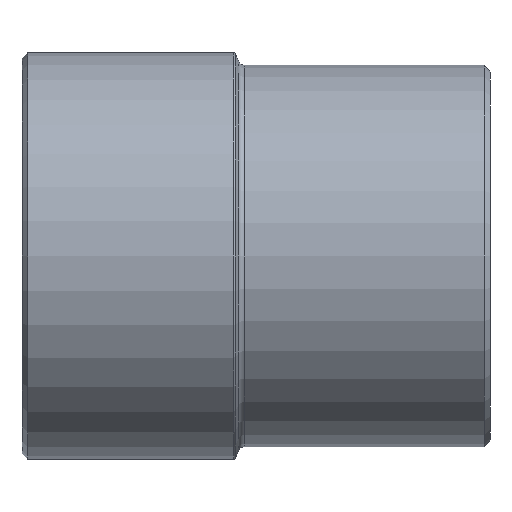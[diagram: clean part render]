
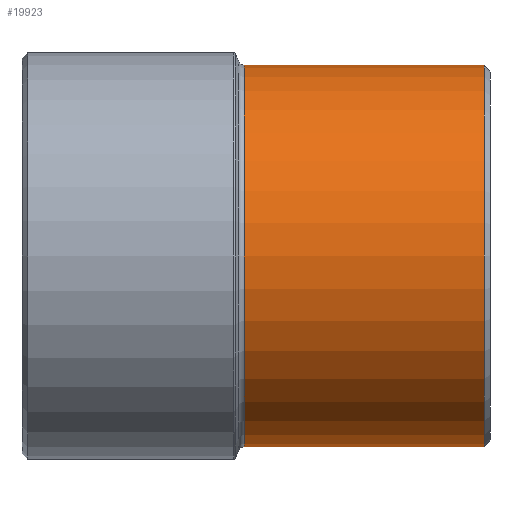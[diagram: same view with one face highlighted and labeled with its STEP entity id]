
A CAD part, front view. The second image highlights one B-rep face of the part: STEP entity #19923.
In plain terms, the highlighted cylindrical face has radius 67.25 mm (diameter 134.5 mm), a partial arc.
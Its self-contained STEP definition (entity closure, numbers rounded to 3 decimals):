
#1418 = EDGE_CURVE ( 'NONE', #13955, #13790, #9329, .T. ) ;
#3505 = EDGE_CURVE ( 'NONE', #13990, #13955, #14701, .T. ) ;
#3506 = EDGE_CURVE ( 'NONE', #13971, #13790, #14708, .T. ) ;
#3546 = EDGE_CURVE ( 'NONE', #13971, #13990, #24865, .T. ) ;
#7608 = ORIENTED_EDGE ( 'NONE', *, *, #3506, .F. ) ;
#7609 = ORIENTED_EDGE ( 'NONE', *, *, #3546, .T. ) ;
#7610 = ORIENTED_EDGE ( 'NONE', *, *, #3505, .T. ) ;
#7611 = ORIENTED_EDGE ( 'NONE', *, *, #1418, .T. ) ;
#9329 = CIRCLE ( 'NONE', #9343, 67.25 ) ;
#9343 = AXIS2_PLACEMENT_3D ( 'NONE', #22589, #22590, #22591 ) ;
#13790 = VERTEX_POINT ( 'NONE', #22042 ) ;
#13955 = VERTEX_POINT ( 'NONE', #16616 ) ;
#13971 = VERTEX_POINT ( 'NONE', #16682 ) ;
#13990 = VERTEX_POINT ( 'NONE', #16767 ) ;
#14697 = CARTESIAN_POINT ( 'NONE',  ( 90.267, 0., -67.25 ) ) ;
#14701 = LINE ( 'NONE', #14697, #24811 ) ;
#14707 = DIRECTION ( 'NONE',  ( 1., 0., 0. ) ) ;
#14708 = LINE ( 'NONE', #14710, #24813 ) ;
#14710 = CARTESIAN_POINT ( 'NONE',  ( 90.267, 0., 67.25 ) ) ;
#14711 = DIRECTION ( 'NONE',  ( 1., 0., 0. ) ) ;
#15017 = CARTESIAN_POINT ( 'NONE',  ( -0.718, 0., 0. ) ) ;
#15018 = DIRECTION ( 'NONE',  ( 1., 0., 0. ) ) ;
#15019 = DIRECTION ( 'NONE',  ( 0., 0., -1. ) ) ;
#16616 = CARTESIAN_POINT ( 'NONE',  ( 84., 0., -67.25 ) ) ;
#16682 = CARTESIAN_POINT ( 'NONE',  ( -0.718, 0., 67.25 ) ) ;
#16767 = CARTESIAN_POINT ( 'NONE',  ( -0.718, 0., -67.25 ) ) ;
#18035 = AXIS2_PLACEMENT_3D ( 'NONE', #18465, #18461, #18468 ) ;
#18461 = DIRECTION ( 'NONE',  ( 1., 0., 0. ) ) ;
#18464 = FACE_OUTER_BOUND ( 'NONE', #24336, .T. ) ;
#18465 = CARTESIAN_POINT ( 'NONE',  ( 90.267, 0., 0. ) ) ;
#18467 = CYLINDRICAL_SURFACE ( 'NONE', #18035, 67.25 ) ;
#18468 = DIRECTION ( 'NONE',  ( 0., 0., -1. ) ) ;
#19923 = ADVANCED_FACE ( 'NONE', ( #18464 ), #18467, .T. ) ;
#22042 = CARTESIAN_POINT ( 'NONE',  ( 84., 0., 67.25 ) ) ;
#22589 = CARTESIAN_POINT ( 'NONE',  ( 84., 0., 0. ) ) ;
#22590 = DIRECTION ( 'NONE',  ( -1., 0., 0. ) ) ;
#22591 = DIRECTION ( 'NONE',  ( 0., 0., 1. ) ) ;
#24336 = EDGE_LOOP ( 'NONE', ( #7608, #7609, #7610, #7611 ) ) ;
#24811 = VECTOR ( 'NONE', #14707, 1000. ) ;
#24813 = VECTOR ( 'NONE', #14711, 1000. ) ;
#24865 = CIRCLE ( 'NONE', #24872, 67.25 ) ;
#24872 = AXIS2_PLACEMENT_3D ( 'NONE', #15017, #15018, #15019 ) ;
